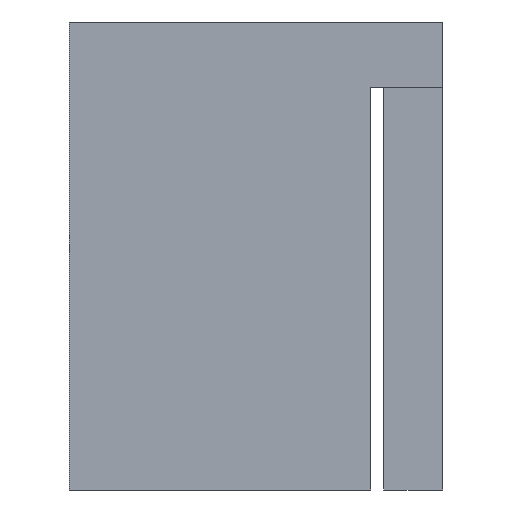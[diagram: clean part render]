
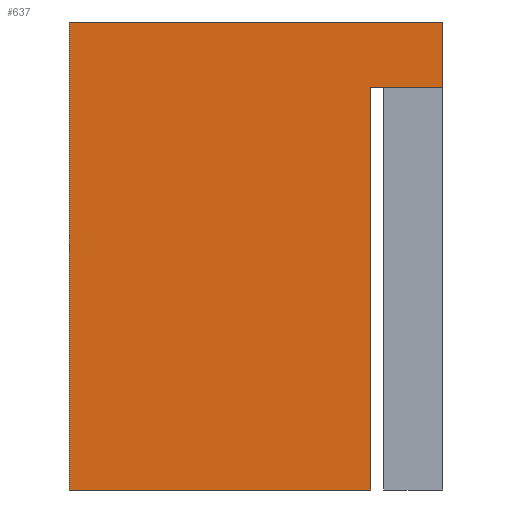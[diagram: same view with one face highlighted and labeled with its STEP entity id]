
A CAD part, front view. The second image highlights one B-rep face of the part: STEP entity #637.
In plain terms, the highlighted planar face has unit normal (0, -1, 0).
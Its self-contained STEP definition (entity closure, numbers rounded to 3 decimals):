
#51=FACE_OUTER_BOUND('',#83,.T.);
#83=EDGE_LOOP('',(#545,#546,#547,#548,#549,#550));
#131=LINE('',#952,#213);
#141=LINE('',#970,#223);
#161=LINE('',#1011,#243);
#163=LINE('',#1014,#245);
#164=LINE('',#1016,#246);
#165=LINE('',#1017,#247);
#213=VECTOR('',#773,10.);
#223=VECTOR('',#789,10.);
#243=VECTOR('',#827,10.);
#245=VECTOR('',#831,10.);
#246=VECTOR('',#832,10.);
#247=VECTOR('',#833,10.);
#293=VERTEX_POINT('',#949);
#294=VERTEX_POINT('',#951);
#298=VERTEX_POINT('',#967);
#299=VERTEX_POINT('',#969);
#311=VERTEX_POINT('',#1010);
#312=VERTEX_POINT('',#1015);
#363=EDGE_CURVE('',#293,#294,#131,.T.);
#373=EDGE_CURVE('',#298,#299,#141,.T.);
#393=EDGE_CURVE('',#311,#299,#161,.T.);
#395=EDGE_CURVE('',#294,#298,#163,.T.);
#396=EDGE_CURVE('',#312,#293,#164,.T.);
#397=EDGE_CURVE('',#311,#312,#165,.T.);
#545=ORIENTED_EDGE('',*,*,#393,.T.);
#546=ORIENTED_EDGE('',*,*,#373,.F.);
#547=ORIENTED_EDGE('',*,*,#395,.F.);
#548=ORIENTED_EDGE('',*,*,#363,.F.);
#549=ORIENTED_EDGE('',*,*,#396,.F.);
#550=ORIENTED_EDGE('',*,*,#397,.F.);
#607=PLANE('',#689);
#637=ADVANCED_FACE('',(#51),#607,.F.);
#689=AXIS2_PLACEMENT_3D('',#1013,#829,#830);
#773=DIRECTION('',(-1.,0.,0.));
#789=DIRECTION('',(-1.,0.,0.));
#827=DIRECTION('',(0.,0.,-1.));
#829=DIRECTION('center_axis',(0.,1.,0.));
#830=DIRECTION('ref_axis',(0.,0.,1.));
#831=DIRECTION('',(0.,0.,-1.));
#832=DIRECTION('',(0.,0.,-1.));
#833=DIRECTION('',(1.,0.,0.));
#949=CARTESIAN_POINT('',(-31.5,12.5,-6.05));
#951=CARTESIAN_POINT('',(-32.6,12.5,-6.05));
#952=CARTESIAN_POINT('',(-34.35,12.5,-6.05));
#967=CARTESIAN_POINT('',(-32.6,12.5,-12.2));
#969=CARTESIAN_POINT('',(-37.2,12.5,-12.2));
#970=CARTESIAN_POINT('',(-34.9,12.5,-12.2));
#1010=CARTESIAN_POINT('',(-37.2,12.5,-5.05));
#1011=CARTESIAN_POINT('',(-37.2,12.5,-5.55));
#1013=CARTESIAN_POINT('Origin',(-34.35,12.5,-5.55));
#1014=CARTESIAN_POINT('',(-32.6,12.5,-9.05));
#1015=CARTESIAN_POINT('',(-31.5,12.5,-5.05));
#1016=CARTESIAN_POINT('',(-31.5,12.5,-5.55));
#1017=CARTESIAN_POINT('',(-34.35,12.5,-5.05));
